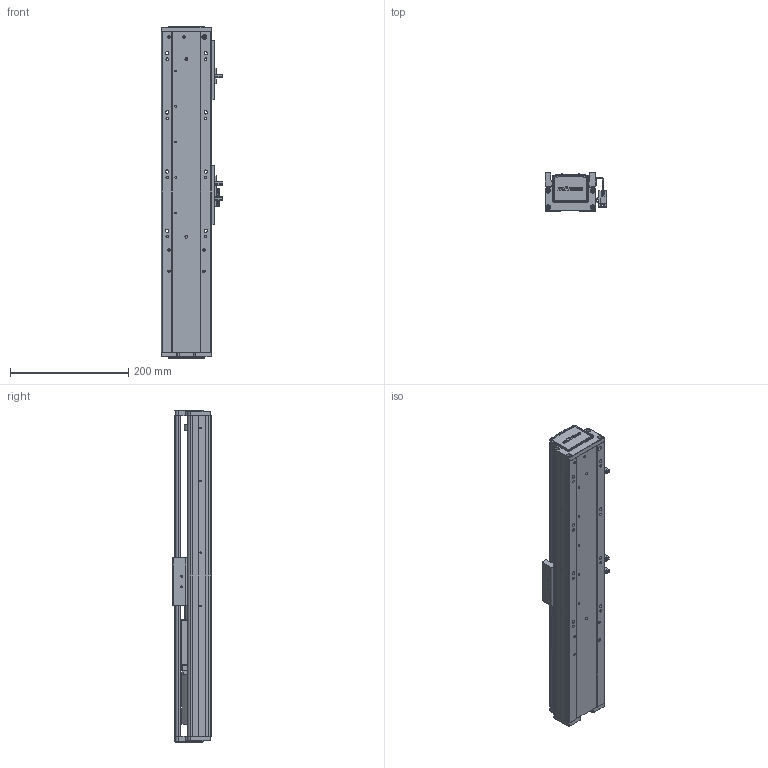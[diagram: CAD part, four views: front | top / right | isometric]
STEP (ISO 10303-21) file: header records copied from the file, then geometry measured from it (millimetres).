
FILE_DESCRIPTION (( 'STEP AP203' ), '1' );
FILE_NAME ('RY80-L1620-300-IK.SLDASM_200.step', '2021-02-22T05:28:39', ( '盈信电脑' ), ( '东莞市道滘镇水果街19号' ), 'SwSTEP 2.0', 'SolidWorks 2012', '' );
FILE_SCHEMA (( 'CONFIG_CONTROL_DESIGN' ));
Length unit declared in the file: millimetre
Products named in the file (14): RY80囀离ヶ啣; 滅袉蝶18-24; RY80-L1620-300-IK.SLDASM_200; RY80囀离萇儂啣; 672嫖萇羲壽假蚾釱; RY80俋离覜茼え; 侂狟100W; 覜茼ん672; RY80-300倰第奻裔啣-IK_200; RY80綴裔啣; 滅袉蝶18-10; RY80萇儂傷盓傅釱; RY80-300倰第菁釱-IK_200; RY80臏賑輸
Assembly tree (16 placements, depth 2):
  RY80-L1620-300-IK.SLDASM_200
    RY80-300倰第菁釱-IK_200
    RY80臏賑輸
    RY80-300倰第奻裔啣-IK_200
    RY80萇儂傷盓傅釱
    RY80綴裔啣
    滅袉蝶18-10
    672嫖萇羲壽假蚾釱  x2
    覜茼ん672  x3
    RY80俋离覜茼え
    侂狟100W
    RY80囀离萇儂啣
    RY80囀离ヶ啣
    滅袉蝶18-24
Bounding box: 103.7 x 65 x 561 mm (x, y, z)
Volume: 1145885.1 mm3; surface area: 459903 mm2
Topology: 16 solids, 16 shells, 1967 faces, 5428 edges, 3539 vertices
Faces by surface type: plane 1250, cylinder 582, cone 91, bspline 44
Entity records: 60855 total; most frequent: CARTESIAN_POINT 14635, ORIENTED_EDGE 9576, DIRECTION 8741, EDGE_CURVE 4788, LINE 3335, VECTOR 3335, VERTEX_POINT 3155, AXIS2_PLACEMENT_3D 2703
